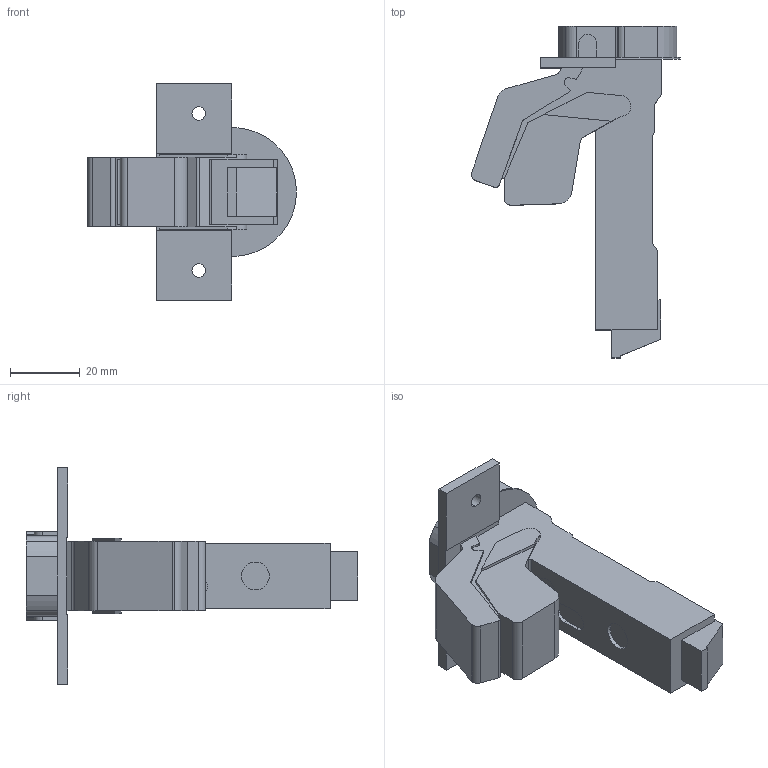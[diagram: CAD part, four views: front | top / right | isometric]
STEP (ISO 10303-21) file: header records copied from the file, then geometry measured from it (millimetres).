
FILE_DESCRIPTION (( 'STEP AP214' ), '1' );
FILE_NAME ('Gehäuse Holz M9, B-BB, K14, neutral, geschlossen, Platte 00 - Neu -.step', '2019-10-01T07:52:28', ( '' ), ( '' ), 'SwSTEP 2.0', 'SolidWorks 2019', '' );
FILE_SCHEMA (( 'AUTOMOTIVE_DESIGN' ));
Length unit declared in the file: millimetre
Products named in the file (1): Gehäuse Holz M9, B-BB, K14, neutral, geschlossen, Platte 00 - Neu -
Bounding box: 59.86 x 95.1 x 62 mm (x, y, z)
Volume: 57046 mm3; surface area: 14941.3 mm2
Topology: 1 solids, 1 shells, 141 faces, 403 edges, 268 vertices
Faces by surface type: plane 86, cylinder 55
Entity records: 4653 total; most frequent: CARTESIAN_POINT 813, ORIENTED_EDGE 806, DIRECTION 797, EDGE_CURVE 403, LINE 293, VECTOR 293, VERTEX_POINT 268, AXIS2_PLACEMENT_3D 252
